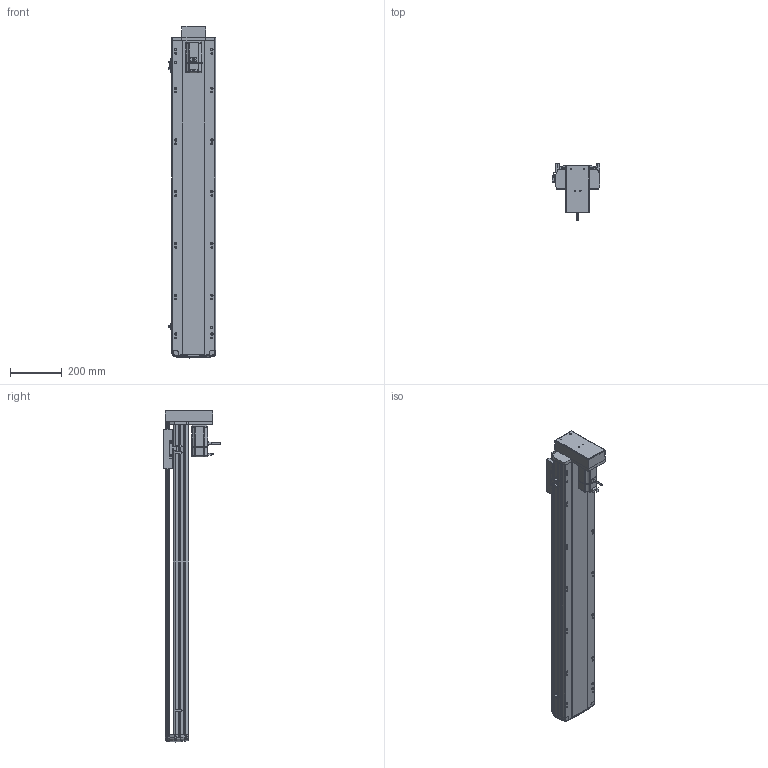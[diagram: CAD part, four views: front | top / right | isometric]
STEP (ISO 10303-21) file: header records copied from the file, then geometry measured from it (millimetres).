
FILE_DESCRIPTION (( 'STEP AP214' ), '1' );
FILE_NAME ('RTH17-XX-1000-M-M40-C4.STEP', '2025-10-24T09:08:53', ( '' ), ( '' ), 'SwSTEP 2.0', 'SolidWorks 2018', '' );
FILE_SCHEMA (( 'AUTOMOTIVE_DESIGN' ));
Length unit declared in the file: millimetre
Products named in the file (10): N_M40^RTH17-XX-XX-M-M40-C4（方程式）; N_OMRON EE-SX672 換覜ん^RTH17-XX-XX-M-M40-C4ㄗ源最宒ㄘ; N_RTH-BL-012 感应片(外置)^RTH17-XX-XX-M-M40-C4（方程式）; RTH17-XX-1000-M-M40-C4; N_RTH17-M-008-P40电机安装板下折^RTH17-XX-XX-M-M40-C4（方程式）; N_RTH17-M-018盖子^RTH17-XX-XX-M-M40-C4（方程式）; N_RTH17-M-007上盖^RTH17-XX-XX-M-M40-C4（方程式）; N_RTH17-E-004丝杆螺母连接座^RTH17-XX-XX-M-M40-C4（方程式）; N_RTH17-GY-001P^RTH17-XX-XX-M-M40-C4（方程式）; N_RTH17-M-011底座^RTH17-XX-XX-M-M40-C4（方程式）
Assembly tree (11 placements, depth 2):
  RTH17-XX-1000-M-M40-C4
    N_RTH17-M-011底座^RTH17-XX-XX-M-M40-C4（方程式）
    N_RTH17-M-007上盖^RTH17-XX-XX-M-M40-C4（方程式）
    N_M40^RTH17-XX-XX-M-M40-C4（方程式）
    N_OMRON EE-SX672 換覜ん^RTH17-XX-XX-M-M40-C4ㄗ源最宒ㄘ  x3
    N_RTH-BL-012 感应片(外置)^RTH17-XX-XX-M-M40-C4（方程式）
    N_RTH17-M-008-P40电机安装板下折^RTH17-XX-XX-M-M40-C4（方程式）
    N_RTH17-M-018盖子^RTH17-XX-XX-M-M40-C4（方程式）
    N_RTH17-E-004丝杆螺母连接座^RTH17-XX-XX-M-M40-C4（方程式）
    N_RTH17-GY-001P^RTH17-XX-XX-M-M40-C4（方程式）
Bounding box: 183.5 x 219 x 1283.19 mm (x, y, z)
Volume: 9879418.1 mm3; surface area: 1389691.2 mm2
Topology: 10 solids, 12 shells, 1679 faces, 4698 edges, 3064 vertices
Faces by surface type: plane 834, cylinder 478, bspline 330, cone 28, torus 9
Entity records: 49396 total; most frequent: CARTESIAN_POINT 19914, ORIENTED_EDGE 6420, DIRECTION 5290, EDGE_CURVE 3214, VERTEX_POINT 2100, LINE 1792, VECTOR 1792, AXIS2_PLACEMENT_3D 1749
